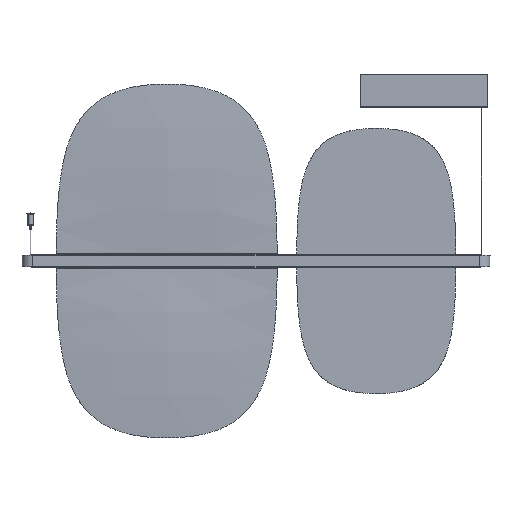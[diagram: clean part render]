
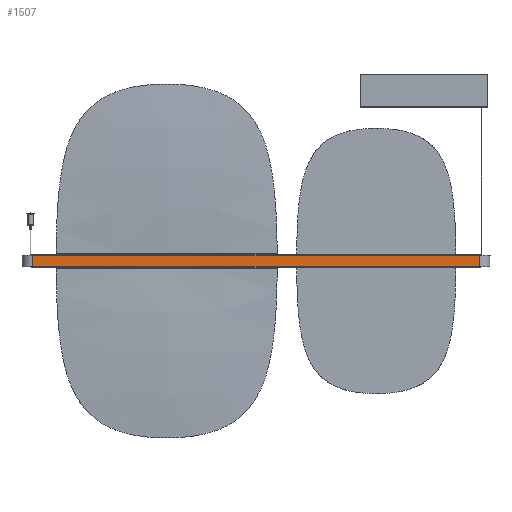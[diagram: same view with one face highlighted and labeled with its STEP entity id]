
A CAD part, front view. The second image highlights one B-rep face of the part: STEP entity #1507.
In plain terms, the highlighted planar face has unit normal (0, -1, 0).
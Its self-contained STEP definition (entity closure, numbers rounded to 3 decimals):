
#1507=ADVANCED_FACE('',(#2830),#23374,.T.);
#2830=FACE_OUTER_BOUND('',#4164,.T.);
#4164=EDGE_LOOP('',(#11529,#11530,#11531,#11532));
#11529=ORIENTED_EDGE('',*,*,#15577,.T.);
#11530=ORIENTED_EDGE('',*,*,#15589,.T.);
#11531=ORIENTED_EDGE('',*,*,#15497,.F.);
#11532=ORIENTED_EDGE('',*,*,#15590,.T.);
#15497=EDGE_CURVE('',#22127,#22128,#19490,.T.);
#15577=EDGE_CURVE('',#22261,#22260,#19566,.T.);
#15589=EDGE_CURVE('',#22260,#22128,#19578,.T.);
#15590=EDGE_CURVE('',#22127,#22261,#19579,.T.);
#19490=B_SPLINE_CURVE_WITH_KNOTS('',1,(#44666,#44667),.UNSPECIFIED.,.F.,
 .F.,(2,2),(0.,26.8),.UNSPECIFIED.);
#19566=B_SPLINE_CURVE_WITH_KNOTS('',1,(#44830,#44831),.UNSPECIFIED.,.F.,
 .F.,(2,2),(-26.8,0.),.UNSPECIFIED.);
#19578=B_SPLINE_CURVE_WITH_KNOTS('',1,(#44854,#44855),.UNSPECIFIED.,.F.,
 .F.,(2,2),(0.,1010.),.UNSPECIFIED.);
#19579=B_SPLINE_CURVE_WITH_KNOTS('',1,(#44856,#44857),.UNSPECIFIED.,.F.,
 .F.,(2,2),(0.,1010.),.UNSPECIFIED.);
#22127=VERTEX_POINT('',#44243);
#22128=VERTEX_POINT('',#44244);
#22260=VERTEX_POINT('',#44376);
#22261=VERTEX_POINT('',#44377);
#23374=PLANE('',#25510);
#25510=AXIS2_PLACEMENT_3D('',#43973,#26855,$);
#26855=DIRECTION('',(0.,-1.,0.));
#43973=CARTESIAN_POINT('',(-606.12,-23.9,16.2));
#44243=CARTESIAN_POINT('',(-505.,-23.9,-13.4));
#44244=CARTESIAN_POINT('',(-505.,-23.9,13.4));
#44376=CARTESIAN_POINT('',(505.,-23.9,13.4));
#44377=CARTESIAN_POINT('',(505.,-23.9,-13.4));
#44666=CARTESIAN_POINT('',(-505.,-23.9,-13.4));
#44667=CARTESIAN_POINT('',(-505.,-23.9,13.4));
#44830=CARTESIAN_POINT('',(505.,-23.9,-13.4));
#44831=CARTESIAN_POINT('',(505.,-23.9,13.4));
#44854=CARTESIAN_POINT('',(505.,-23.9,13.4));
#44855=CARTESIAN_POINT('',(-505.,-23.9,13.4));
#44856=CARTESIAN_POINT('',(-505.,-23.9,-13.4));
#44857=CARTESIAN_POINT('',(505.,-23.9,-13.4));
